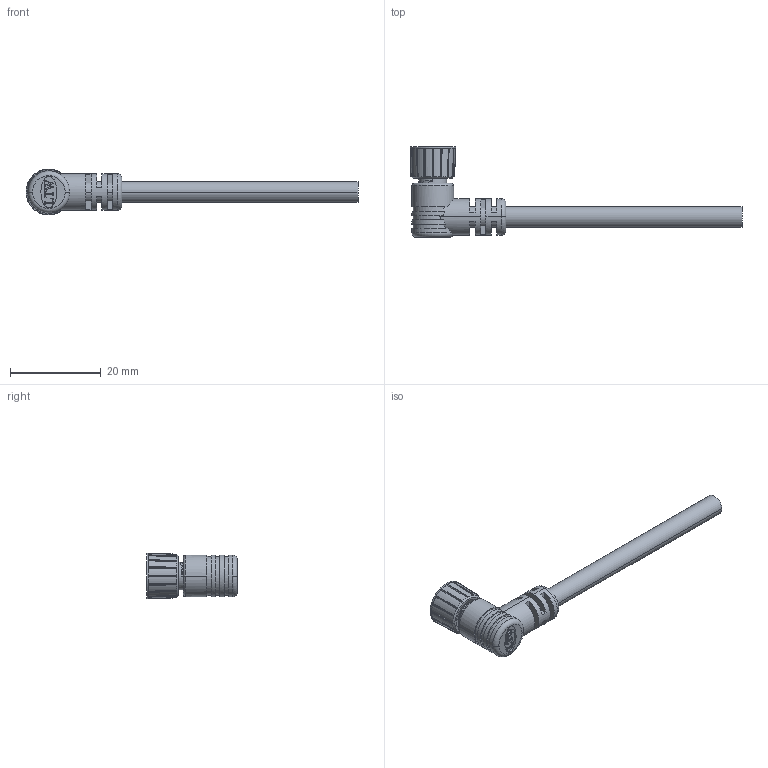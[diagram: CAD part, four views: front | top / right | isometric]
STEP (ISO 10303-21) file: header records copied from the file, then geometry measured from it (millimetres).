
FILE_DESCRIPTION((''),'2;1');
FILE_NAME('005375_ASM','2021-07-21T',('L100003'),(''),'PRO/ENGINEER BY PARAMETRIC TECHNOLOGY CORPORATION, 2017170','PRO/ENGINEER BY PARAMETRIC TECHNOLOGY CORPORATION, 2017170','');
FILE_SCHEMA(('CONFIG_CONTROL_DESIGN'));
Length unit declared in the file: millimetre
Products named in the file (9): MSBR-8; MSBR-7; MSBR-6; MSBR-5; MSBR-4; MSBR-3; MSBR-2; MSBR-1; 005375_ASM
Assembly tree (8 placements, depth 2):
  005375_ASM
    MSBR-8
    MSBR-7
    MSBR-6
    MSBR-5
    MSBR-4
    MSBR-3
    MSBR-2
    MSBR-1
Bounding box: 73.13 x 20 x 10.06 mm (x, y, z)
Volume: 2818 mm3; surface area: 3079.8 mm2
Topology: 8 solids, 8 shells, 536 faces, 1461 edges, 953 vertices
Faces by surface type: plane 222, cylinder 153, cone 70, extrusion 63, torus 14, bspline 14
Entity records: 24187 total; most frequent: CARTESIAN_POINT 8376, ORIENTED_EDGE 2898, DIRECTION 2546, EDGE_CURVE 1449, VERTEX_POINT 953, AXIS2_PLACEMENT_3D 927, VECTOR 692, LINE 629
